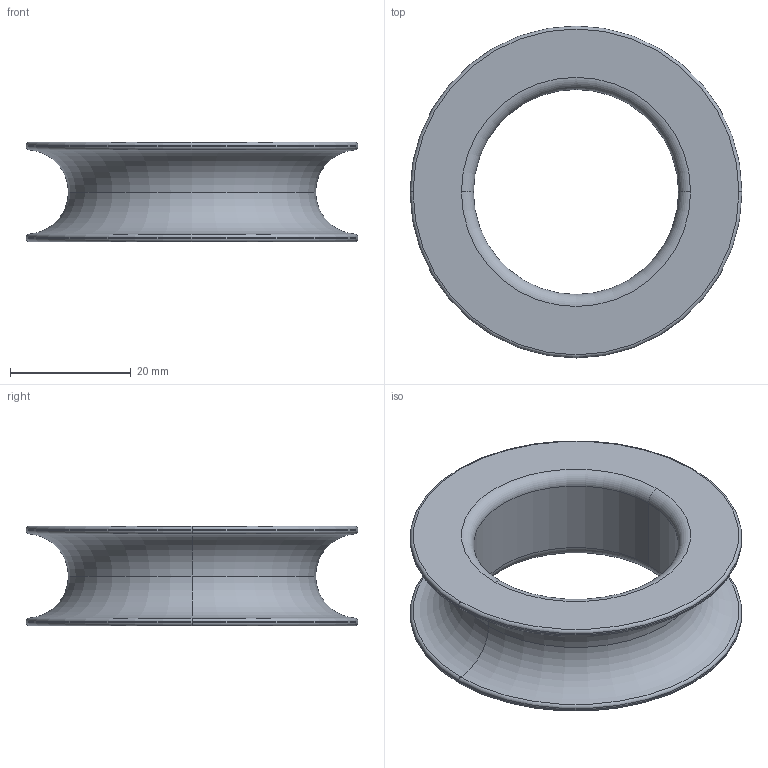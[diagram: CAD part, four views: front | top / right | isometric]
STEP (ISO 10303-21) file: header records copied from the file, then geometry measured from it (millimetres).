
FILE_DESCRIPTION (( 'STEP AP214' ), '1' );
FILE_NAME ('Sheeve v2.STEP', '2026-03-06T11:03:09', ( '' ), ( '' ), 'SwSTEP 2.0', 'SolidWorks 2026', '' );
FILE_SCHEMA (( 'AUTOMOTIVE_DESIGN' ));
Length unit declared in the file: millimetre
Products named in the file (1): Sheeve v2
Bounding box: 55 x 55 x 16.5 mm (x, y, z)
Volume: 12134.7 mm3; surface area: 7991.3 mm2
Topology: 1 solids, 1 shells, 24 faces, 48 edges, 26 vertices
Faces by surface type: torus 16, cylinder 6, plane 2
Entity records: 657 total; most frequent: DIRECTION 140, CARTESIAN_POINT 99, ORIENTED_EDGE 96, AXIS2_PLACEMENT_3D 67, EDGE_CURVE 48, CIRCLE 42, VERTEX_POINT 26, EDGE_LOOP 26
